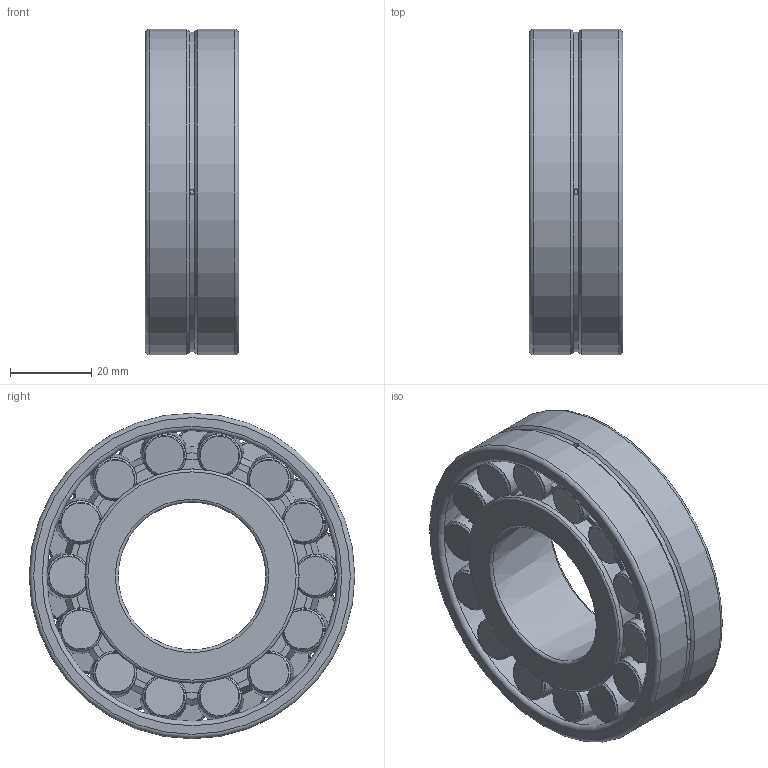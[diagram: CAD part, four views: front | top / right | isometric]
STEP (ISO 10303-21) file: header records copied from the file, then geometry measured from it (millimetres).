
FILE_DESCRIPTION(/* description */ (''),/* implementation_level */ '2;1');
FILE_NAME(/* name */ 'C:\Users\OUREHANEKD\Desktop\Ložiská\MODELY\DRSL\Klietka MB\222K\222--\22208KW33MB.stp',/* time_stamp */ '2016-09-19T10:01:34+02:00',/* author */ ('OUREHANEKD'),/* organization */ (''),/* preprocessor_version */ 'ST-DEVELOPER v15.6',/* originating_system */ 'Autodesk Inventor 2015',/* authorisation */ '');
FILE_SCHEMA (('AUTOMOTIVE_DESIGN { 1 0 10303 214 3 1 1 }'));
Length unit declared in the file: millimetre
Products named in the file (6): 22208W33MB-01; 22208W33MB-02; 22208W33MB-kl; 22208W33MB-roller2; 22208W33MB-roller1; 22208KW33MB
Assembly tree (31 placements, depth 2):
  22208KW33MB
    22208W33MB-01
    22208W33MB-02
    22208W33MB-kl
    22208W33MB-roller2  x14
    22208W33MB-roller1  x14
Bounding box: 23 x 80 x 80 mm (x, y, z)
Volume: 67188.2 mm3; surface area: 43191.4 mm2
Topology: 32 solids, 32 shells, 295 faces, 516 edges, 283 vertices
Faces by surface type: torus 123, plane 66, cone 63, bspline 29, cylinder 14
Full cylindrical faces by diameter (mm): 1.38 x3, 51.5 x2, 57.48 x2, 63.46 x2, 80 x2
Entity records: 2147 total; most frequent: CARTESIAN_POINT 727, DIRECTION 310, ORIENTED_EDGE 160, AXIS2_PLACEMENT_3D 155, EDGE_LOOP 114, EDGE_CURVE 80, VERTEX_POINT 70, FACE_OUTER_BOUND 61
